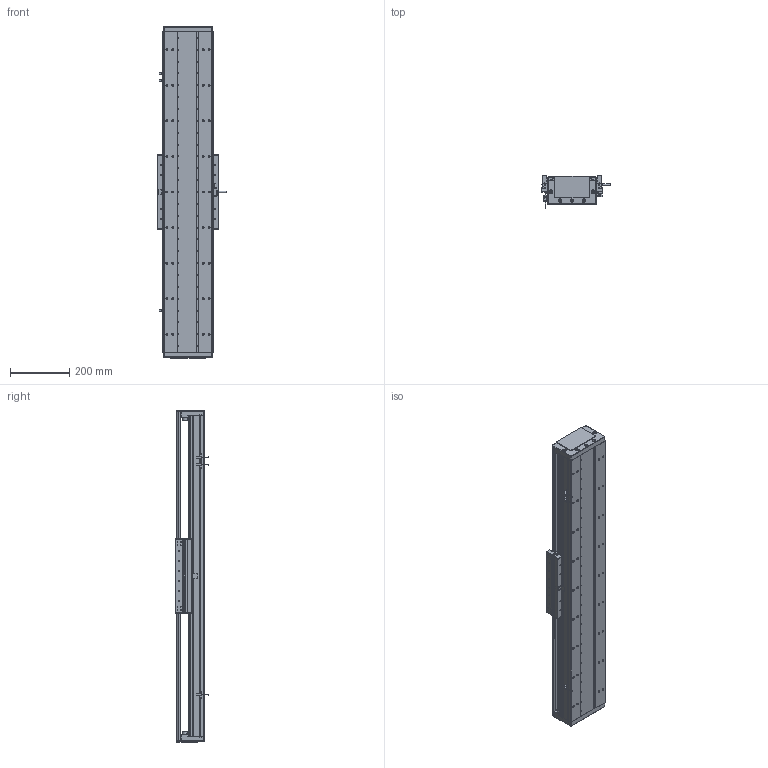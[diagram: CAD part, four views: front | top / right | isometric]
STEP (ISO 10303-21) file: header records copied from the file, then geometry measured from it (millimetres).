
FILE_DESCRIPTION (( 'STEP AP203' ), '1' );
FILE_NAME ('DA-C165-C3-T780-C010-0.2 直线电机.STEP', '2023-06-13T08:41:12', ( '微软用户' ), ( '微软中国' ), 'SwSTEP 2.0', 'SolidWorks 2019', '' );
FILE_SCHEMA (( 'CONFIG_CONTROL_DESIGN' ));
Length unit declared in the file: millimetre
Products named in the file (15): 复件 六角薄螺母 M3^DA-C165-C3-T-C010-0.2-N 直线电机_GB_FASTENER_NUT_STNAB M3-C; 复件 XD-U-02L 磁栅尺^DA-C165-C3-T-C010-0.2-N 直线电机_T; 葩璃 CKM01-W075-TRL^DA-C165-C3-T-C010-0.2-N 眻盄萇儂; 复件 DMA-010-0.2 读数头^DA-C165-C3-T-C010-0.2-N 直线电机; IU-CU165-L 菁釱絳寢; 葩璃 CKM03-W075-C1C2-TP-3.0^DA-C165-C3-T-C010-0.2-N 眻盄萇儂; 葩璃 PM-T45^DA-C165-C3-T-C010-0.2-N 眻盄萇儂; DA-C165-C3-T780-C010-0.2 眻盄萇儂; 复件 DA95-HXJ-00 缓冲橡胶^DA-C165-C3-T-C010-0.2-N 直线电机; 葩璃 DA95-GT-T-00^IU-CU165-L 菁釱絳寢_T; 复件 CU165 底座^IU-CU165-L 底座导轨_L1080; 复件 DA165-GYP-00 光电感应片^DA-C165-C3-T-C010-0.2-N 直线电机; 复件 DA165-T-002-00 盖板^DA-C165-C3-T-C010-0.2-N 直线电机_0840-002-00; 珨极趙賑雄怢啣C3-wf; 复件 DA165-DG-H-N-00 端盖^DA-C165-C3-T-C010-0.2-N 直线电机
Assembly tree (30 placements, depth 3):
  DA-C165-C3-T780-C010-0.2 眻盄萇儂
    IU-CU165-L 菁釱絳寢
      复件 CU165 底座^IU-CU165-L 底座导轨_L1080
      葩璃 DA95-GT-T-00^IU-CU165-L 菁釱絳寢_T  x4
    复件 DA165-DG-H-N-00 端盖^DA-C165-C3-T-C010-0.2-N 直线电机  x2
    复件 DA95-HXJ-00 缓冲橡胶^DA-C165-C3-T-C010-0.2-N 直线电机  x4
    复件 DA165-T-002-00 盖板^DA-C165-C3-T-C010-0.2-N 直线电机_0840-002-00
    复件 XD-U-02L 磁栅尺^DA-C165-C3-T-C010-0.2-N 直线电机_T
    葩璃 PM-T45^DA-C165-C3-T-C010-0.2-N 眻盄萇儂  x3
    葩璃 CKM01-W075-TRL^DA-C165-C3-T-C010-0.2-N 眻盄萇儂
    复件 DA165-GYP-00 光电感应片^DA-C165-C3-T-C010-0.2-N 直线电机
    复件 DMA-010-0.2 读数头^DA-C165-C3-T-C010-0.2-N 直线电机
    葩璃 CKM03-W075-C1C2-TP-3.0^DA-C165-C3-T-C010-0.2-N 眻盄萇儂
    复件 六角薄螺母 M3^DA-C165-C3-T-C010-0.2-N 直线电机_GB_FASTENER_NUT_STNAB M3-C  x8
    珨极趙賑雄怢啣C3-wf
Bounding box: 233 x 111.45 x 1120 mm (x, y, z)
Volume: 8641769.4 mm3; surface area: 2305935.8 mm2
Topology: 68 solids, 118 shells, 3571 faces, 9564 edges, 5930 vertices
Faces by surface type: cylinder 1786, plane 1175, cone 552, torus 54, sphere 4
Entity records: 105907 total; most frequent: CARTESIAN_POINT 25034, DIRECTION 16804, ORIENTED_EDGE 16182, EDGE_CURVE 8091, AXIS2_PLACEMENT_3D 6370, VERTEX_POINT 5218, LINE 4064, VECTOR 4064
